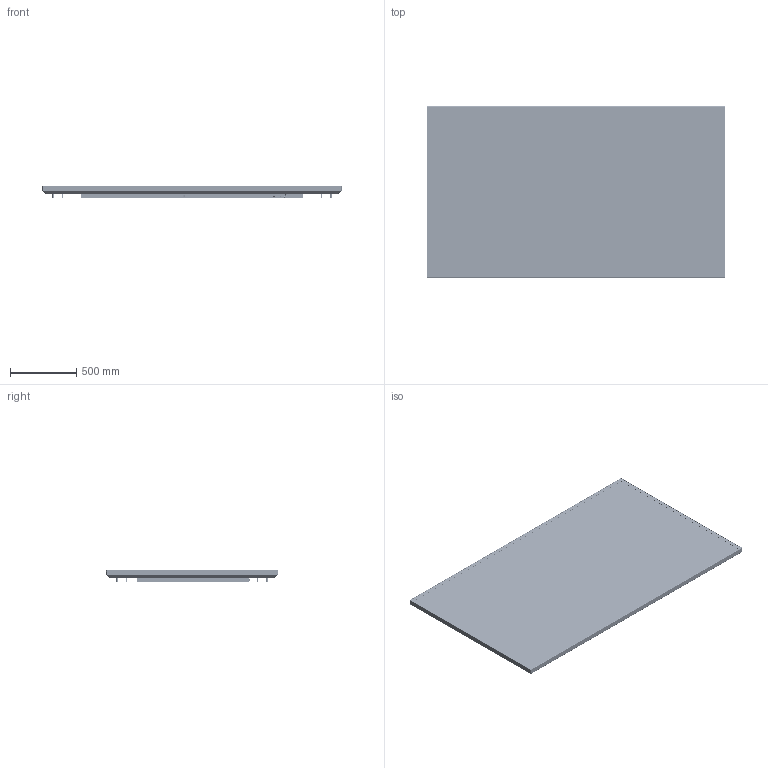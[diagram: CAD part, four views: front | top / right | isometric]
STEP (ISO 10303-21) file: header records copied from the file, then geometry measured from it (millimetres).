
FILE_DESCRIPTION (( 'STEP AP203' ), '1' );
FILE_NAME ('Hayden URX100 Standard Panel 3D.STEP', '2021-01-18T23:58:40', ( '' ), ( '' ), 'SwSTEP 2.0', 'SolidWorks 2019', '' );
FILE_SCHEMA (( 'CONFIG_CONTROL_DESIGN' ));
Length unit declared in the file: millimetre
Products named in the file (67): 572-5345; B18.6.7M - M3 x 0.5 x 8 Type I Cross Recessed PHMS --8N BLK_B18.6.7M - M3 x 0.5 x 8 Type I Cross Recessed PHMS --8N; 572-5377; 572-5379; 572-5367; 572-5380; 572-5382; 572-5376; 572-5339_Masked; B18.6.7M - M3 x 0.5 x 6 Type I Cross Recessed FHMS --6N_B18.6.7M - M3 x 0.5 x 6 Type I Cross Recessed FHMS --6N; SPACER, 0.5in OD x 0.25in ID x 1.1875in LG_92414A437; 572-5347; 572-5378; PEM TPS-4mm-16; 105-0020-00; 437-2443; PEM FH-M6-15 ZI--N_PEM FH-M6-15 ZI--N; 526-0564_Molded; RIVET - 093 C''SINK; 105-0018-50; 572-5304_Masked; 572-4464; PEM SO-3.5M3-4 ZI--N_PEM SO-3.5M3-4 ZI--N; PEM BSO-3.5M3-14 ZI--N_PEM BSO-3.5M3-14 ZI--N; 540-0192; PEM S-M4-1 ZI--N; RIVET - 125 BUTTON HEAD; PLP2-125 (Lens); PEM SO-M3-3 ZI--N_PEM SO-M3-3 ZI--N; 105-0022-00; Simplified module_id_Fu_Sa00dk1-k02_180328-No2_Shell; B18.3.5M - 6 x 1.0 x 40 Socket FCHS  -- 40N_B18.3.5M - 6 x 1.0 x 40 Socket FCHS  -- 40N; PF11MF-M4-1; 572-5304; B18.6.7M - M3 x 0.5 x 6 Type I Cross Recessed FHMS --6N BLK_PreviewCfg; PEM BSO-3.5M3-10 ZI--N_PEM BSO-3.5M3-10 ZI--N; Shell Version of 944-2980; PEM TPS-4mm-8_PreviewCfg; PEM S-M3-1 ZI--N_PEM S-M3-1 ZI--N; 82-35-302-15 base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
Assembly tree (260 placements, depth 6):
  Hayden URX100 Standard Panel 3D
    Simplified module_id_Fu_Sa00dk1-k02_180328-No2_Shell
    Hayden common tray_Hayden 100
      437-2443
        572-5304
          572-5304_Masked
          PEM BSO-3.5M3-14 ZI--N_PEM BSO-3.5M3-14 ZI--N  x12
          PEM SO-3.5M3-8 ZI--N_PEM SO-3.5M3-8 ZI--N  x9
          PEM BSO-3.5M3-10 ZI--N_PEM BSO-3.5M3-10 ZI--N  x6
          PEM PF11-M4-1-ZI--N  x4
          105-0018-50
            82-35-302-15 spring
            82-35-302-15 base
          RIVET - 093 C''SINK  x2
          PEM FH-M6-15 ZI--N_PEM FH-M6-15 ZI--N
          PEM S-M4-1 ZI--N  x2
          PEM S-M3-1 ZI--N_PEM S-M3-1 ZI--N  x2
          PEM TPS-4mm-16  x2
        572-5339_Masked
        B18.6.7M - M4 x 0.7 x 6 Type I Cross Recessed PHMS --6N BLK_B18.6.7M - M4 x 0.7 x 6 Type I Cross Recessed PHMS BLK --6N  x2
        572-5345
          572-5345
          PEM SO-M3-3 ZI--N_PEM SO-M3-3 ZI--N  x2
        572-5345
          572-5345
          PEM SO-M3-3 ZI--N_PEM SO-M3-3 ZI--N  x2
        572-5345
          572-5345
          PEM SO-M3-3 ZI--N_PEM SO-M3-3 ZI--N  x2
        572-5345
          572-5345
          PEM SO-M3-3 ZI--N_PEM SO-M3-3 ZI--N  x2
        572-5345
          572-5345
          PEM SO-M3-3 ZI--N_PEM SO-M3-3 ZI--N  x2
        572-5345
          572-5345
          PEM SO-M3-3 ZI--N_PEM SO-M3-3 ZI--N  x2
        RIVET - 125 BUTTON HEAD  x12
      10SS6-B2AHR-QPB
      572-5367
        572-5367
        PF11MF-M4-1  x2
        PEM SO-3.5M3-4 ZI--N_PEM SO-3.5M3-4 ZI--N  x8
        PEM TPS-4mm-8_PreviewCfg  x2
        105-0020-00
        105-0022-00
        82-19-180-16
        B18.6.7M - M3 x 0.5 x 6 Type I Cross Recessed FHMS --6N_B18.6.7M - M3 x 0.5 x 6 Type I Cross Recessed FHMS --6N  x8
        B18.22M - Plain washer, 3 mm, wide_B18.22M - Plain washer, 3 mm, wide  x8
    572-4464
      572-4464
      PLP2-125 (Lens)
    540-0192
    B18.6.7M - M3 x 0.5 x 6 Type I Cross Recessed FHMS --6N BLK_PreviewCfg  x4
    B18.6.7M - M4 x 0.7 x 10 Type I Cross Recessed FHMS --10N - BLK_B18.6.7M - M4 x 0.7 x 10 Type I Cross Recessed FHMS --10N  x44
    572-5347  x2
    572-5348  x2
    526-0564_Molded  x4
    572-5378
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Bounding box: 2260.88 x 1294.18 x 94.33 mm (x, y, z)
Volume: 8466982.4 mm3; surface area: 14933035 mm2
Topology: 241 solids, 366 shells, 15187 faces, 42891 edges, 28570 vertices
Faces by surface type: plane 7462, cylinder 5515, bspline 1053, cone 819, torus 218, sphere 120
Entity records: 394526 total; most frequent: CARTESIAN_POINT 105197, ORIENTED_EDGE 56349, DIRECTION 55241, EDGE_CURVE 30564, VERTEX_POINT 21107, LINE 18437, VECTOR 18437, AXIS2_PLACEMENT_3D 18402
